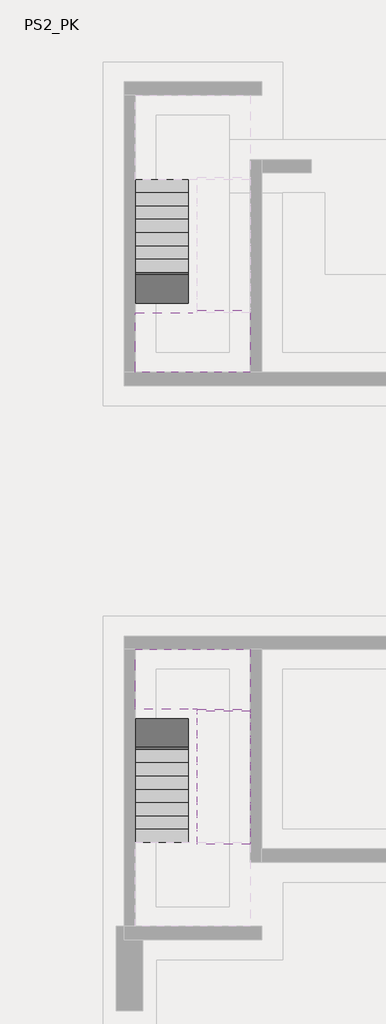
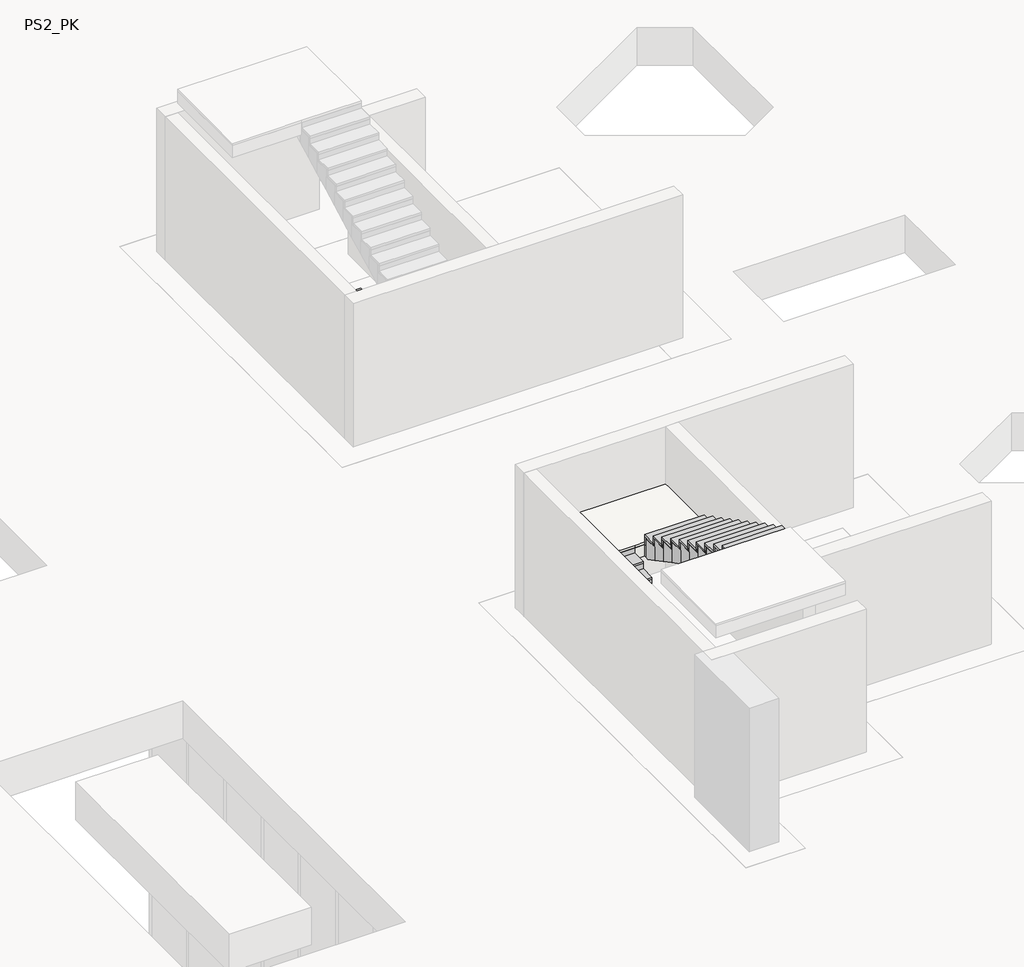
# One storey, part 9 of 10: 3 stair flights, 2 slabs.
"""IFC4 building model written with IfcOpenShell, lengths in millimetres."""

import ifcopenshell
import ifcopenshell.guid

model = None  # the IFC model being written
_history = None  # IfcOwnerHistory: only IFC2X3 demands one
_inside = {}  # id of a spatial element -> (the spatial element, [elements in it])
_under = {}  # id of a project, library or spatial element -> (it, [spatial elements below it])
_declared = {}  # id of a project -> (the project, [libraries it declares])
_typed = {}  # id of a type object -> (the type object, [elements of that type])
_made_of = {}  # id of a material, layer set ... -> (it, [elements and type objects made of it])


def new_model(schema):
    """Start an empty IFC model of exactly this schema.

    Asked for "IFC4X3", IfcOpenShell would pick the latest addendum, in which some entities
    have other attributes; the version numbers below select the first issue.
    IFC2X3 requires an IfcOwnerHistory on every rooted entity: one is made here for all.
    """
    global model, _history
    if schema == "IFC4X3":
        model = ifcopenshell.file(schema_version=(4, 3, 0, 0))
    else:
        model = ifcopenshell.file(schema=schema)
    _inside.clear()
    _under.clear()
    _declared.clear()
    _typed.clear()
    _made_of.clear()
    _history = None
    if model.schema == "IFC2X3":
        org = make("IfcOrganization", Name="unknown")
        user = make(
            "IfcPersonAndOrganization",
            ThePerson=make("IfcPerson", FamilyName="unknown"),
            TheOrganization=org,
        )
        app = make(
            "IfcApplication",
            ApplicationDeveloper=org,
            Version="unknown",
            ApplicationFullName="unknown",
            ApplicationIdentifier="unknown",
        )
        _history = make(
            "IfcOwnerHistory",
            OwningUser=user,
            OwningApplication=app,
            ChangeAction="ADDED",
            CreationDate=0,
        )
    return model


def make(cls, **values):
    """One entity of the class cls with the attributes given. An attribute that is None is left unset."""
    return model.create_entity(
        cls, **{name: value for name, value in values.items() if value is not None}
    )


def rooted(cls, **values):
    """An entity with a GlobalId (a new one), such as an element, a storey or a relation."""
    return make(cls, GlobalId=ifcopenshell.guid.new(), OwnerHistory=_history, **values)


def si_unit(unit_type, name, prefix=None):
    """IfcSIUnit, for example si_unit("LENGTHUNIT", "METRE", prefix="MILLI")."""
    return make("IfcSIUnit", UnitType=unit_type, Prefix=prefix, Name=name)


def assignment(units):
    """IfcUnitAssignment: the units of a project."""
    return None if units is None else make("IfcUnitAssignment", Units=units)


def point(xyz):
    """IfcCartesianPoint."""
    return None if xyz is None else make("IfcCartesianPoint", Coordinates=xyz)


def direction(xyz):
    """IfcDirection."""
    return None if xyz is None else make("IfcDirection", DirectionRatios=xyz)


def frame(location, z_axis=None, x_axis=None):
    """IfcAxis2Placement3D, a coordinate frame: its origin and axes. An axis left out is left unset."""
    return make(
        "IfcAxis2Placement3D",
        Location=point(location),
        Axis=direction(z_axis),
        RefDirection=direction(x_axis),
    )


def origin():
    """The frame at (0, 0, 0) with its axes left unset."""
    return frame((0.0, 0.0, 0.0))


def place(relative_to, where):
    """IfcLocalPlacement: puts the frame where relative to a parent placement (None: the world)."""
    return make(
        "IfcLocalPlacement", PlacementRelTo=relative_to, RelativePlacement=where
    )


def context(
    kind, dimensions, precision=None, world=None, true_north=None, identifier=None
):
    """IfcGeometricRepresentationContext, for example the 3D "Model" context."""
    return make(
        "IfcGeometricRepresentationContext",
        ContextIdentifier=identifier,
        ContextType=kind,
        CoordinateSpaceDimension=dimensions,
        Precision=precision,
        WorldCoordinateSystem=world,
        TrueNorth=true_north,
    )


def project(units=None, contexts=None):
    """IfcProject with its units and contexts."""
    return rooted(
        "IfcProject",
        Name="project",
        RepresentationContexts=contexts,
        UnitsInContext=assignment(units),
    )


def spatial(cls, under=None, at=None, **own):
    """A site, building, storey or space (cls), placed at a placement, below another one or the project."""
    s = rooted(cls, ObjectPlacement=at, **own)
    if under is not None:
        _under.setdefault(under.id(), (under, []))[1].append(s)
    return s


def polyline(points):
    """IfcPolyline through the points."""
    return make("IfcPolyline", Points=[point(p) for p in points])


def outline(outer, holes=None, kind="AREA"):
    """IfcArbitraryClosedProfileDef: a profile drawn as a closed curve; with holes, ...WithVoids."""
    if holes is None:
        return make("IfcArbitraryClosedProfileDef", ProfileType=kind, OuterCurve=outer)
    return make(
        "IfcArbitraryProfileDefWithVoids",
        ProfileType=kind,
        OuterCurve=outer,
        InnerCurves=holes,
    )


def extrude(swept, where, along, depth):
    """IfcExtrudedAreaSolid: the profile swept, set in the frame where, extruded along a direction by depth."""
    return make(
        "IfcExtrudedAreaSolid",
        SweptArea=swept,
        Position=where,
        ExtrudedDirection=direction(along),
        Depth=depth,
    )


def faces_of(points, faces, orient=None, outer=None):
    """IfcFace entities. A face is a list of loops; a loop is a list of indices into points, from 0.

    orient and outer hold one flag for each loop. By default every Orientation is true, the
    first loop of a face is its IfcFaceOuterBound and the others are IfcFaceBound.
    """
    made = []
    for i, loops in enumerate(faces):
        bounds = []
        for j, loop in enumerate(loops):
            is_outer = j == 0 if outer is None else outer[i][j]
            bounds.append(
                make(
                    "IfcFaceOuterBound" if is_outer else "IfcFaceBound",
                    Bound=make("IfcPolyLoop", Polygon=[points[k] for k in loop]),
                    Orientation=True if orient is None else orient[i][j],
                )
            )
        made.append(make("IfcFace", Bounds=bounds))
    return made


def faceted_brep(points, faces, orient=None, outer=None, voids=None):
    """IfcFacetedBrep: a solid bounded by flat faces; with voids (closed shells), ...WithVoids."""
    shared = [point(p) for p in points]
    hull = make("IfcClosedShell", CfsFaces=faces_of(shared, faces, orient, outer))
    if voids is None:
        return make("IfcFacetedBrep", Outer=hull)
    return make(
        "IfcFacetedBrepWithVoids",
        Outer=hull,
        Voids=[
            make(cls, CfsFaces=faces_of(shared, fs, o, b)) for cls, fs, o, b in voids
        ],
    )


def shape(context_of_items, identifier, shape_type, items):
    """IfcShapeRepresentation: the items that make up one representation, for example the "Body"."""
    return make(
        "IfcShapeRepresentation",
        ContextOfItems=context_of_items,
        RepresentationIdentifier=identifier,
        RepresentationType=shape_type,
        Items=items,
    )


def made_of(thing, what):
    """Note that an element or type object is made of a material, layer set ...; save() writes the relation."""
    if what is not None:
        _made_of.setdefault(what.id(), (what, []))[1].append(thing)
    return thing


def element(
    cls,
    number,
    at=None,
    inside=None,
    cuts=None,
    type_object=None,
    material=None,
    context=None,
    identifier="Body",
    shape_type=None,
    held_by="IfcProductDefinitionShape",
    body=None,
    shapes=None,
    **own,
):
    """One element of the class cls, such as IfcWall. Its Tag is "e" and its number.

    at: its placement. inside: the storey or other place that contains it. cuts: it is an
    opening in that element (IfcRelVoidsElement). A single representation is given by context,
    identifier, shape_type and body (its items); several are given by shapes. held_by: the class
    of the entity that holds the representations. save() writes the other relations.
    """
    e = rooted(cls, Tag="e%d" % number, ObjectPlacement=at, **own)
    if body is not None:
        shapes = [shape(context, identifier, shape_type, body)]
    if shapes is not None:
        e.Representation = make(held_by, Representations=shapes)
    if inside is not None:
        _inside.setdefault(inside.id(), (inside, []))[1].append(e)
    if cuts is not None:
        rooted(
            "IfcRelVoidsElement", RelatingBuildingElement=cuts, RelatedOpeningElement=e
        )
    if type_object is not None:
        _typed.setdefault(type_object.id(), (type_object, []))[1].append(e)
    return made_of(e, material)


def aggregate(whole, parts):
    """IfcRelAggregates: a whole, such as a stair, and the parts it consists of."""
    return rooted("IfcRelAggregates", RelatingObject=whole, RelatedObjects=parts)


def save(model, path):
    """Write the relations noted so far, then the file.

    IfcRelAggregates (storeys below a building ...), IfcRelContainedInSpatialStructure (elements
    in a storey), IfcRelDefinesByType, IfcRelAssociatesMaterial and IfcRelDeclares: one each for
    every whole, place, type object, material and project.
    """
    for whole, parts in _under.values():
        aggregate(whole, parts)
    for where, things in _inside.values():
        rooted(
            "IfcRelContainedInSpatialStructure",
            RelatedElements=things,
            RelatingStructure=where,
        )
    for kind, things in _typed.values():
        rooted("IfcRelDefinesByType", RelatedObjects=things, RelatingType=kind)
    for what, things in _made_of.values():
        rooted("IfcRelAssociatesMaterial", RelatedObjects=things, RelatingMaterial=what)
    for by, libraries in _declared.values():
        rooted("IfcRelDeclares", RelatingContext=by, RelatedDefinitions=libraries)
    model.write(path)


model = new_model("IFC4")

# Units and contexts
model_context = context("Model", 3, world=origin())
ifc_project = project(units=[si_unit("LENGTHUNIT", "METRE", prefix="MILLI")], contexts=[model_context])

# Site, building, storey
site = spatial("IfcSite", under=ifc_project)
building = spatial("IfcBuilding", under=site)
storey = spatial("IfcBuildingStorey", under=building, Name="PS2_PK", Elevation=-1600.0)

# Slabs
placement = place(None, origin())
element("IfcSlab", 1, ObjectType="250mm_Thickness", at=placement, inside=storey, context=model_context, shape_type="SolidModel", body=[
    faceted_brep([(-12190.3216429, 8964.882711, 175.0), (-12190.3216429, 8914.882711, 175.0), (-13390.3216429, 8914.882711, 175.0), (-13390.3216429, 8553.4830768, 175.0), (-13390.3216429, 7614.8960687, 175.0), (-10790.2146087, 7614.8960687, 175.0), (-10790.2146087, 8964.882711, 175.0), (-10790.2146087, 9014.882711, 175.0), (-11990.2146087, 9014.882711, 175.0), (-11990.2146087, 8964.882711, 175.0), (-12190.3216429, 8964.882711, -75.0), (-12190.3216429, 8914.882711, -75.0), (-12190.3216429, 8914.882711, 18.1818182), (-12190.3216429, 8914.882711, -263.9134452), (-13390.3216429, 8914.882711, -263.9134452), (-13390.3216429, 8914.882711, 18.1818182), (-13390.3216429, 8553.4830768, -75.0), (-13390.3216429, 7614.8960687, -75.0), (-10790.2146087, 7614.8960687, -75.0), (-10790.2146087, 8964.882711, -75.0), (-10790.2146087, 9014.882711, -75.0), (-11990.2146087, 9014.882711, -75.0), (-11990.2146087, 8964.882711, -75.0), (-12190.3216429, 8553.4830768, -75.0)], [[[0, 1, 2, 3, 4, 5, 6, 7, 8, 9]], [[1, 0, 10, 11, 12]], [[2, 1, 12, 11, 13, 14, 15]], [[2, 15, 14, 16, 17, 4, 3]], [[5, 4, 17, 18]], [[6, 5, 18, 19]], [[7, 6, 19, 20]], [[8, 7, 20, 21]], [[9, 8, 21, 22]], [[0, 9, 22, 10]], [[16, 23, 11, 10, 22, 21, 20, 19, 18, 17]], [[23, 16, 14, 13]], [[11, 23, 13]]]),
    extrude(outline(polyline([(-12190.3216429, 8964.882711), (-11990.2146087, 8964.882711), (-10790.2146087, 8964.882711), (-10790.2146087, 7614.8960687), (-13390.3216429, 7614.8960687), (-13390.3216429, 8964.882711), (-12190.3216429, 8964.882711)])), frame((0.0, 0.0, 175.0), z_axis=(0.0, 0.0, 1.0), x_axis=(1.0, 0.0, 0.0)), (0.0, 0.0, 1.0), 50.0),
])
element("IfcSlab", 2, ObjectType="250mm_Thickness", at=placement, inside=storey, context=model_context, shape_type="SolidModel", body=[
    faceted_brep([(-13390.3216429, 64.9094255, 175.0), (-12190.3216429, 64.9094255, 175.0), (-12190.3216429, 14.9094255, 175.0), (-11990.2146087, 14.9094255, 175.0), (-11990.2146087, -35.0905745, 175.0), (-10790.2146087, -35.0905745, 175.0), (-10790.2146087, 14.9094255, 175.0), (-10790.2146087, 1364.8960678, 175.0), (-13390.3216429, 1364.8960678, 175.0), (-13390.3216429, 426.3090597, 175.0), (-13390.3216429, 64.9094255, 18.1818182), (-13390.3216429, 64.9094255, -263.9134452), (-12190.3216429, 64.9094255, -263.9134452), (-12190.3216429, 64.9094255, -75.0), (-12190.3216429, 64.9094255, 18.1818182), (-13390.3216429, 1364.8960678, -75.0), (-13390.3216429, 426.3090597, -75.0), (-10790.2146087, 1364.8960678, -75.0), (-10790.2146087, 14.9094255, -75.0), (-10790.2146087, -35.0905745, -75.0), (-11990.2146087, -35.0905745, -75.0), (-12190.3216429, 14.9094255, -75.0), (-11990.2146087, 14.9094255, -75.0), (-12190.3216429, 426.3090597, -75.0)], [[[0, 1, 2, 3, 4, 5, 6, 7, 8, 9]], [[1, 0, 10, 11, 12, 13, 14]], [[11, 10, 0, 9, 8, 15, 16]], [[8, 7, 17, 15]], [[7, 6, 18, 17]], [[6, 5, 19, 18]], [[5, 4, 20, 19]], [[3, 2, 21, 22]], [[23, 16, 15, 17, 18, 19, 20, 22, 21, 13]], [[16, 23, 12, 11]], [[23, 13, 12]], [[2, 1, 14, 13, 21]], [[4, 3, 22, 20]]]),
    extrude(outline(polyline([(-13390.3216429, 14.9094255), (-13390.3216429, 1364.8960678), (-10790.2146087, 1364.8960678), (-10790.2146087, 14.9094255), (-11990.2146087, 14.9094255), (-12190.3216429, 14.9094255), (-13390.3216429, 14.9094255)])), frame((0.0, 0.0, 175.0), z_axis=(0.0, 0.0, 1.0), x_axis=(1.0, 0.0, 0.0)), (0.0, 0.0, 1.0), 50.0),
])

# Stair flights
element("IfcStairFlight", 3, ObjectType="250mm Depth", at=placement, inside=storey, context=model_context, shape_type="SolidModel", body=[
    faceted_brep([(-12190.3216429, 11614.882711, -1393.1818182), (-12190.3216429, 11914.882711, -1393.1818182), (-13390.3216429, 11914.882711, -1393.1818182), (-13390.3216429, 11614.882711, -1393.1818182), (-12190.3216429, 11614.882711, -1500.0), (-12190.3216429, 11914.882711, -1500.0), (-13390.3216429, 11914.882711, -1500.0), (-13390.3216429, 11614.882711, -1500.0), (-12190.3216429, 11314.882711, -1236.3636364), (-12190.3216429, 11614.882711, -1236.3636364), (-13390.3216429, 11614.882711, -1236.3636364), (-13390.3216429, 11314.882711, -1236.3636364), (-12190.3216429, 11314.882711, -1500.0), (-13390.3216429, 11314.882711, -1500.0), (-12190.3216429, 11014.882711, -1079.5454545), (-12190.3216429, 11314.882711, -1079.5454545), (-13390.3216429, 11314.882711, -1079.5454545), (-13390.3216429, 11014.882711, -1079.5454545), (-12190.3216429, 11014.882711, -1361.6407179), (-12190.3216429, 11279.5700333, -1500.0), (-13390.3216429, 11279.5700333, -1500.0), (-13390.3216429, 11014.882711, -1361.6407179), (-12190.3216429, 10714.882711, -922.7272727), (-12190.3216429, 11014.882711, -922.7272727), (-13390.3216429, 11014.882711, -922.7272727), (-13390.3216429, 10714.882711, -922.7272727), (-12190.3216429, 10714.882711, -1204.8225361), (-13390.3216429, 10714.882711, -1204.8225361), (-12190.3216429, 10414.882711, -765.9090909), (-12190.3216429, 10714.882711, -765.9090909), (-13390.3216429, 10714.882711, -765.9090909), (-13390.3216429, 10414.882711, -765.9090909), (-12190.3216429, 10414.882711, -1048.0043543), (-13390.3216429, 10414.882711, -1048.0043543), (-12190.3216429, 10114.882711, -609.0909091), (-12190.3216429, 10414.882711, -609.0909091), (-13390.3216429, 10414.882711, -609.0909091), (-13390.3216429, 10114.882711, -609.0909091), (-12190.3216429, 10114.882711, -891.1861724), (-13390.3216429, 10114.882711, -891.1861724), (-12190.3216429, 9814.882711, -452.2727273), (-12190.3216429, 10114.882711, -452.2727273), (-13390.3216429, 10114.882711, -452.2727273), (-13390.3216429, 9814.882711, -452.2727273), (-12190.3216429, 9814.882711, -734.3679906), (-13390.3216429, 9814.882711, -734.3679906), (-12190.3216429, 9514.882711, -295.4545455), (-12190.3216429, 9814.882711, -295.4545455), (-13390.3216429, 9814.882711, -295.4545455), (-13390.3216429, 9514.882711, -295.4545455), (-12190.3216429, 9514.882711, -577.5498088), (-13390.3216429, 9514.882711, -577.5498088), (-12190.3216429, 9214.882711, -138.6363636), (-12190.3216429, 9514.882711, -138.6363636), (-13390.3216429, 9514.882711, -138.6363636), (-13390.3216429, 9214.882711, -138.6363636), (-12190.3216429, 9214.882711, -420.731627), (-13390.3216429, 9214.882711, -420.731627), (-12190.3216429, 9214.882711, 18.1818182), (-13390.3216429, 9214.882711, 18.1818182), (-13390.3216429, 8964.882711, 18.1818182), (-13390.3216429, 8914.882711, 18.1818182), (-12190.3216429, 8914.882711, 18.1818182), (-12190.3216429, 8964.882711, 18.1818182), (-12190.3216429, 8914.882711, -75.0), (-12190.3216429, 8914.882711, -263.9134452), (-13390.3216429, 8964.882711, -290.0498088), (-13390.3216429, 8914.882711, -263.9134452)], [[[0, 1, 2, 3]], [[1, 0, 4, 5]], [[2, 1, 5, 6]], [[3, 2, 6, 7]], [[8, 9, 10, 11]], [[4, 0, 9, 8, 12]], [[0, 3, 10, 9]], [[3, 7, 13, 11, 10]], [[14, 15, 16, 17]], [[12, 8, 15, 14, 18, 19]], [[8, 11, 16, 15]], [[11, 13, 20, 21, 17, 16]], [[22, 23, 24, 25]], [[23, 22, 26, 18, 14]], [[14, 17, 24, 23]], [[25, 24, 17, 21, 27]], [[28, 29, 30, 31]], [[29, 28, 32, 26, 22]], [[22, 25, 30, 29]], [[31, 30, 25, 27, 33]], [[34, 35, 36, 37]], [[35, 34, 38, 32, 28]], [[28, 31, 36, 35]], [[37, 36, 31, 33, 39]], [[40, 41, 42, 43]], [[41, 40, 44, 38, 34]], [[34, 37, 42, 41]], [[43, 42, 37, 39, 45]], [[46, 47, 48, 49]], [[47, 46, 50, 44, 40]], [[40, 43, 48, 47]], [[49, 48, 43, 45, 51]], [[52, 53, 54, 55]], [[53, 52, 56, 50, 46]], [[46, 49, 54, 53]], [[55, 54, 49, 51, 57]], [[58, 59, 60, 61, 62, 63]], [[52, 58, 63, 62, 64, 65, 56]], [[52, 55, 59, 58]], [[59, 55, 57, 66, 67, 61, 60]], [[62, 61, 67, 65, 64]], [[5, 4, 12, 19, 20, 13, 7, 6]], [[20, 19, 18, 26, 32, 38, 44, 50, 56, 65, 67, 66, 57, 51, 45, 39, 33, 27, 21]]]),
    extrude(outline(polyline([(-13390.3216429, 11914.882711), (-13390.3216429, 11964.882711), (-12190.3216429, 11964.882711), (-12190.3216429, 11914.882711), (-13390.3216429, 11914.882711)])), frame((0.0, 0.0, -1500.0), z_axis=(0.0, 0.0, 1.0), x_axis=(1.0, 0.0, 0.0)), (0.0, 0.0, 1.0), 106.8181818),
    extrude(outline(polyline([(-12190.3216429, 11664.882711), (-13390.3216429, 11664.882711), (-13390.3216429, 11964.882711), (-12190.3216429, 11964.882711), (-12190.3216429, 11664.882711)])), frame((0.0, 0.0, -1393.1818182), z_axis=(0.0, 0.0, 1.0), x_axis=(1.0, 0.0, 0.0)), (0.0, 0.0, 1.0), 50.0),
    extrude(outline(polyline([(-13390.3216429, 11614.882711), (-13390.3216429, 11664.882711), (-12190.3216429, 11664.882711), (-12190.3216429, 11614.882711), (-13390.3216429, 11614.882711)])), frame((0.0, 0.0, -1393.1818182), z_axis=(0.0, 0.0, 1.0), x_axis=(1.0, 0.0, 0.0)), (0.0, 0.0, 1.0), 156.8181818),
    extrude(outline(polyline([(-12190.3216429, 11364.882711), (-13390.3216429, 11364.882711), (-13390.3216429, 11664.882711), (-12190.3216429, 11664.882711), (-12190.3216429, 11364.882711)])), frame((0.0, 0.0, -1236.3636364), z_axis=(0.0, 0.0, 1.0), x_axis=(1.0, 0.0, 0.0)), (0.0, 0.0, 1.0), 50.0),
    extrude(outline(polyline([(-13390.3216429, 11314.882711), (-13390.3216429, 11364.882711), (-12190.3216429, 11364.882711), (-12190.3216429, 11314.882711), (-13390.3216429, 11314.882711)])), frame((0.0, 0.0, -1236.3636364), z_axis=(0.0, 0.0, 1.0), x_axis=(1.0, 0.0, 0.0)), (0.0, 0.0, 1.0), 156.8181818),
    extrude(outline(polyline([(-12190.3216429, 11064.882711), (-13390.3216429, 11064.882711), (-13390.3216429, 11364.882711), (-12190.3216429, 11364.882711), (-12190.3216429, 11064.882711)])), frame((0.0, 0.0, -1079.5454545), z_axis=(0.0, 0.0, 1.0), x_axis=(1.0, 0.0, 0.0)), (0.0, 0.0, 1.0), 50.0),
    extrude(outline(polyline([(-13390.3216429, 11014.882711), (-13390.3216429, 11064.882711), (-12190.3216429, 11064.882711), (-12190.3216429, 11014.882711), (-13390.3216429, 11014.882711)])), frame((0.0, 0.0, -1079.5454545), z_axis=(0.0, 0.0, 1.0), x_axis=(1.0, 0.0, 0.0)), (0.0, 0.0, 1.0), 156.8181818),
    extrude(outline(polyline([(-12190.3216429, 10764.882711), (-13390.3216429, 10764.882711), (-13390.3216429, 11064.882711), (-12190.3216429, 11064.882711), (-12190.3216429, 10764.882711)])), frame((0.0, 0.0, -922.7272727), z_axis=(0.0, 0.0, 1.0), x_axis=(1.0, 0.0, 0.0)), (0.0, 0.0, 1.0), 50.0),
    extrude(outline(polyline([(-13390.3216429, 10714.882711), (-13390.3216429, 10764.882711), (-12190.3216429, 10764.882711), (-12190.3216429, 10714.882711), (-13390.3216429, 10714.882711)])), frame((0.0, 0.0, -922.7272727), z_axis=(0.0, 0.0, 1.0), x_axis=(1.0, 0.0, 0.0)), (0.0, 0.0, 1.0), 156.8181818),
    extrude(outline(polyline([(-12190.3216429, 10464.882711), (-13390.3216429, 10464.882711), (-13390.3216429, 10764.882711), (-12190.3216429, 10764.882711), (-12190.3216429, 10464.882711)])), frame((0.0, 0.0, -765.9090909), z_axis=(0.0, 0.0, 1.0), x_axis=(1.0, 0.0, 0.0)), (0.0, 0.0, 1.0), 50.0),
    extrude(outline(polyline([(-13390.3216429, 10414.882711), (-13390.3216429, 10464.882711), (-12190.3216429, 10464.882711), (-12190.3216429, 10414.882711), (-13390.3216429, 10414.882711)])), frame((0.0, 0.0, -765.9090909), z_axis=(0.0, 0.0, 1.0), x_axis=(1.0, 0.0, 0.0)), (0.0, 0.0, 1.0), 156.8181818),
    extrude(outline(polyline([(-12190.3216429, 10164.882711), (-13390.3216429, 10164.882711), (-13390.3216429, 10464.882711), (-12190.3216429, 10464.882711), (-12190.3216429, 10164.882711)])), frame((0.0, 0.0, -609.0909091), z_axis=(0.0, 0.0, 1.0), x_axis=(1.0, 0.0, 0.0)), (0.0, 0.0, 1.0), 50.0),
    extrude(outline(polyline([(-13390.3216429, 10114.882711), (-13390.3216429, 10164.882711), (-12190.3216429, 10164.882711), (-12190.3216429, 10114.882711), (-13390.3216429, 10114.882711)])), frame((0.0, 0.0, -609.0909091), z_axis=(0.0, 0.0, 1.0), x_axis=(1.0, 0.0, 0.0)), (0.0, 0.0, 1.0), 156.8181818),
    extrude(outline(polyline([(-12190.3216429, 9864.882711), (-13390.3216429, 9864.882711), (-13390.3216429, 10164.882711), (-12190.3216429, 10164.882711), (-12190.3216429, 9864.882711)])), frame((0.0, 0.0, -452.2727273), z_axis=(0.0, 0.0, 1.0), x_axis=(1.0, 0.0, 0.0)), (0.0, 0.0, 1.0), 50.0),
    extrude(outline(polyline([(-13390.3216429, 9814.882711), (-13390.3216429, 9864.882711), (-12190.3216429, 9864.882711), (-12190.3216429, 9814.882711), (-13390.3216429, 9814.882711)])), frame((0.0, 0.0, -452.2727273), z_axis=(0.0, 0.0, 1.0), x_axis=(1.0, 0.0, 0.0)), (0.0, 0.0, 1.0), 156.8181818),
    extrude(outline(polyline([(-12190.3216429, 9564.882711), (-13390.3216429, 9564.882711), (-13390.3216429, 9864.882711), (-12190.3216429, 9864.882711), (-12190.3216429, 9564.882711)])), frame((0.0, 0.0, -295.4545455), z_axis=(0.0, 0.0, 1.0), x_axis=(1.0, 0.0, 0.0)), (0.0, 0.0, 1.0), 50.0),
    extrude(outline(polyline([(-13390.3216429, 9514.882711), (-13390.3216429, 9564.882711), (-12190.3216429, 9564.882711), (-12190.3216429, 9514.882711), (-13390.3216429, 9514.882711)])), frame((0.0, 0.0, -295.4545455), z_axis=(0.0, 0.0, 1.0), x_axis=(1.0, 0.0, 0.0)), (0.0, 0.0, 1.0), 156.8181818),
    extrude(outline(polyline([(-12190.3216429, 9264.882711), (-13390.3216429, 9264.882711), (-13390.3216429, 9564.882711), (-12190.3216429, 9564.882711), (-12190.3216429, 9264.882711)])), frame((0.0, 0.0, -138.6363636), z_axis=(0.0, 0.0, 1.0), x_axis=(1.0, 0.0, 0.0)), (0.0, 0.0, 1.0), 50.0),
    extrude(outline(polyline([(-13390.3216429, 9214.882711), (-13390.3216429, 9264.882711), (-12190.3216429, 9264.882711), (-12190.3216429, 9214.882711), (-13390.3216429, 9214.882711)])), frame((0.0, 0.0, -138.6363636), z_axis=(0.0, 0.0, 1.0), x_axis=(1.0, 0.0, 0.0)), (0.0, 0.0, 1.0), 156.8181818),
    extrude(outline(polyline([(-13390.3216429, 8914.882711), (-13390.3216429, 8964.882711), (-12190.3216429, 8964.882711), (-12190.3216429, 8914.882711), (-13390.3216429, 8914.882711)])), frame((0.0, 0.0, 18.1818182), z_axis=(0.0, 0.0, 1.0), x_axis=(1.0, 0.0, 0.0)), (0.0, 0.0, 1.0), 156.8181818),
    extrude(outline(polyline([(-12190.3216429, 8964.882711), (-13390.3216429, 8964.882711), (-13390.3216429, 9264.882711), (-12190.3216429, 9264.882711), (-12190.3216429, 8964.882711)])), frame((0.0, 0.0, 18.1818182), z_axis=(0.0, 0.0, 1.0), x_axis=(1.0, 0.0, 0.0)), (0.0, 0.0, 1.0), 50.0),
])
element("IfcStairFlight", 4, ObjectType="250mm Depth", at=placement, inside=storey, context=model_context, shape_type="SolidModel", body=[
    faceted_brep([(-13390.3216429, -2635.0905745, -1393.1818182), (-13390.3216429, -2935.0905745, -1393.1818182), (-12190.3216429, -2935.0905745, -1393.1818182), (-12190.3216429, -2635.0905745, -1393.1818182), (-12190.3216429, -2935.0905745, -1500.0), (-12190.3216429, -2635.0905745, -1500.0), (-13390.3216429, -2935.0905745, -1500.0), (-13390.3216429, -2635.0905745, -1500.0), (-13390.3216429, -2335.0905745, -1236.3636364), (-13390.3216429, -2635.0905745, -1236.3636364), (-12190.3216429, -2635.0905745, -1236.3636364), (-12190.3216429, -2335.0905745, -1236.3636364), (-12190.3216429, -2335.0905745, -1500.0), (-13390.3216429, -2335.0905745, -1500.0), (-13390.3216429, -2035.0905745, -1079.5454545), (-13390.3216429, -2335.0905745, -1079.5454545), (-12190.3216429, -2335.0905745, -1079.5454545), (-12190.3216429, -2035.0905745, -1079.5454545), (-12190.3216429, -2299.7778968, -1500.0), (-12190.3216429, -2035.0905745, -1361.6407179), (-13390.3216429, -2035.0905745, -1361.6407179), (-13390.3216429, -2299.7778968, -1500.0), (-13390.3216429, -1735.0905745, -922.7272727), (-13390.3216429, -2035.0905745, -922.7272727), (-12190.3216429, -2035.0905745, -922.7272727), (-12190.3216429, -1735.0905745, -922.7272727), (-12190.3216429, -1735.0905745, -1204.8225361), (-13390.3216429, -1735.0905745, -1204.8225361), (-13390.3216429, -1435.0905745, -765.9090909), (-13390.3216429, -1735.0905745, -765.9090909), (-12190.3216429, -1735.0905745, -765.9090909), (-12190.3216429, -1435.0905745, -765.9090909), (-12190.3216429, -1435.0905745, -1048.0043543), (-13390.3216429, -1435.0905745, -1048.0043543), (-13390.3216429, -1135.0905745, -609.0909091), (-13390.3216429, -1435.0905745, -609.0909091), (-12190.3216429, -1435.0905745, -609.0909091), (-12190.3216429, -1135.0905745, -609.0909091), (-12190.3216429, -1135.0905745, -891.1861724), (-13390.3216429, -1135.0905745, -891.1861724), (-13390.3216429, -835.0905745, -452.2727273), (-13390.3216429, -1135.0905745, -452.2727273), (-12190.3216429, -1135.0905745, -452.2727273), (-12190.3216429, -835.0905745, -452.2727273), (-12190.3216429, -835.0905745, -734.3679906), (-13390.3216429, -835.0905745, -734.3679906), (-13390.3216429, -535.0905745, -295.4545455), (-13390.3216429, -835.0905745, -295.4545455), (-12190.3216429, -835.0905745, -295.4545455), (-12190.3216429, -535.0905745, -295.4545455), (-12190.3216429, -535.0905745, -577.5498088), (-13390.3216429, -535.0905745, -577.5498088), (-13390.3216429, -235.0905745, -138.6363636), (-13390.3216429, -535.0905745, -138.6363636), (-12190.3216429, -535.0905745, -138.6363636), (-12190.3216429, -235.0905745, -138.6363636), (-12190.3216429, -235.0905745, -420.731627), (-13390.3216429, -235.0905745, -420.731627), (-13390.3216429, 64.9094255, 18.1818182), (-13390.3216429, -235.0905745, 18.1818182), (-12190.3216429, -235.0905745, 18.1818182), (-12190.3216429, 14.9094255, 18.1818182), (-12190.3216429, 64.9094255, 18.1818182), (-12190.3216429, 64.9094255, -263.9134452), (-12190.3216429, 64.9094255, -75.0), (-13390.3216429, 64.9094255, -263.9134452)], [[[0, 1, 2, 3]], [[3, 2, 4, 5]], [[2, 1, 6, 4]], [[1, 0, 7, 6]], [[8, 9, 10, 11]], [[3, 5, 12, 11, 10]], [[0, 3, 10, 9]], [[7, 0, 9, 8, 13]], [[14, 15, 16, 17]], [[11, 12, 18, 19, 17, 16]], [[8, 11, 16, 15]], [[13, 8, 15, 14, 20, 21]], [[22, 23, 24, 25]], [[25, 24, 17, 19, 26]], [[14, 17, 24, 23]], [[23, 22, 27, 20, 14]], [[28, 29, 30, 31]], [[31, 30, 25, 26, 32]], [[22, 25, 30, 29]], [[29, 28, 33, 27, 22]], [[34, 35, 36, 37]], [[37, 36, 31, 32, 38]], [[28, 31, 36, 35]], [[35, 34, 39, 33, 28]], [[40, 41, 42, 43]], [[43, 42, 37, 38, 44]], [[34, 37, 42, 41]], [[41, 40, 45, 39, 34]], [[46, 47, 48, 49]], [[49, 48, 43, 44, 50]], [[40, 43, 48, 47]], [[47, 46, 51, 45, 40]], [[52, 53, 54, 55]], [[55, 54, 49, 50, 56]], [[46, 49, 54, 53]], [[53, 52, 57, 51, 46]], [[58, 59, 60, 61, 62]], [[60, 55, 56, 63, 64, 62, 61]], [[52, 55, 60, 59]], [[59, 58, 65, 57, 52]], [[58, 62, 64, 63, 65]], [[6, 7, 13, 21, 18, 12, 5, 4]], [[18, 21, 20, 27, 33, 39, 45, 51, 57, 65, 63, 56, 50, 44, 38, 32, 26, 19]]]),
    extrude(outline(polyline([(-12190.3216429, -2935.0905745), (-12190.3216429, -2985.0905745), (-13390.3216429, -2985.0905745), (-13390.3216429, -2935.0905745), (-12190.3216429, -2935.0905745)])), frame((0.0, 0.0, -1500.0), z_axis=(0.0, 0.0, 1.0), x_axis=(1.0, 0.0, 0.0)), (0.0, 0.0, 1.0), 106.8181818),
    extrude(outline(polyline([(-13390.3216429, -2685.0905745), (-12190.3216429, -2685.0905745), (-12190.3216429, -2985.0905745), (-13390.3216429, -2985.0905745), (-13390.3216429, -2685.0905745)])), frame((0.0, 0.0, -1393.1818182), z_axis=(0.0, 0.0, 1.0), x_axis=(1.0, 0.0, 0.0)), (0.0, 0.0, 1.0), 50.0),
    extrude(outline(polyline([(-12190.3216429, -2635.0905745), (-12190.3216429, -2685.0905745), (-13390.3216429, -2685.0905745), (-13390.3216429, -2635.0905745), (-12190.3216429, -2635.0905745)])), frame((0.0, 0.0, -1393.1818182), z_axis=(0.0, 0.0, 1.0), x_axis=(1.0, 0.0, 0.0)), (0.0, 0.0, 1.0), 156.8181818),
    extrude(outline(polyline([(-13390.3216429, -2385.0905745), (-12190.3216429, -2385.0905745), (-12190.3216429, -2685.0905745), (-13390.3216429, -2685.0905745), (-13390.3216429, -2385.0905745)])), frame((0.0, 0.0, -1236.3636364), z_axis=(0.0, 0.0, 1.0), x_axis=(1.0, 0.0, 0.0)), (0.0, 0.0, 1.0), 50.0),
    extrude(outline(polyline([(-12190.3216429, -2335.0905745), (-12190.3216429, -2385.0905745), (-13390.3216429, -2385.0905745), (-13390.3216429, -2335.0905745), (-12190.3216429, -2335.0905745)])), frame((0.0, 0.0, -1236.3636364), z_axis=(0.0, 0.0, 1.0), x_axis=(1.0, 0.0, 0.0)), (0.0, 0.0, 1.0), 156.8181818),
    extrude(outline(polyline([(-13390.3216429, -2085.0905745), (-12190.3216429, -2085.0905745), (-12190.3216429, -2385.0905745), (-13390.3216429, -2385.0905745), (-13390.3216429, -2085.0905745)])), frame((0.0, 0.0, -1079.5454545), z_axis=(0.0, 0.0, 1.0), x_axis=(1.0, 0.0, 0.0)), (0.0, 0.0, 1.0), 50.0),
    extrude(outline(polyline([(-12190.3216429, -2035.0905745), (-12190.3216429, -2085.0905745), (-13390.3216429, -2085.0905745), (-13390.3216429, -2035.0905745), (-12190.3216429, -2035.0905745)])), frame((0.0, 0.0, -1079.5454545), z_axis=(0.0, 0.0, 1.0), x_axis=(1.0, 0.0, 0.0)), (0.0, 0.0, 1.0), 156.8181818),
    extrude(outline(polyline([(-13390.3216429, -1785.0905745), (-12190.3216429, -1785.0905745), (-12190.3216429, -2085.0905745), (-13390.3216429, -2085.0905745), (-13390.3216429, -1785.0905745)])), frame((0.0, 0.0, -922.7272727), z_axis=(0.0, 0.0, 1.0), x_axis=(1.0, 0.0, 0.0)), (0.0, 0.0, 1.0), 50.0),
    extrude(outline(polyline([(-12190.3216429, -1735.0905745), (-12190.3216429, -1785.0905745), (-13390.3216429, -1785.0905745), (-13390.3216429, -1735.0905745), (-12190.3216429, -1735.0905745)])), frame((0.0, 0.0, -922.7272727), z_axis=(0.0, 0.0, 1.0), x_axis=(1.0, 0.0, 0.0)), (0.0, 0.0, 1.0), 156.8181818),
    extrude(outline(polyline([(-13390.3216429, -1485.0905745), (-12190.3216429, -1485.0905745), (-12190.3216429, -1785.0905745), (-13390.3216429, -1785.0905745), (-13390.3216429, -1485.0905745)])), frame((0.0, 0.0, -765.9090909), z_axis=(0.0, 0.0, 1.0), x_axis=(1.0, 0.0, 0.0)), (0.0, 0.0, 1.0), 50.0),
    extrude(outline(polyline([(-12190.3216429, -1435.0905745), (-12190.3216429, -1485.0905745), (-13390.3216429, -1485.0905745), (-13390.3216429, -1435.0905745), (-12190.3216429, -1435.0905745)])), frame((0.0, 0.0, -765.9090909), z_axis=(0.0, 0.0, 1.0), x_axis=(1.0, 0.0, 0.0)), (0.0, 0.0, 1.0), 156.8181818),
    extrude(outline(polyline([(-13390.3216429, -1185.0905745), (-12190.3216429, -1185.0905745), (-12190.3216429, -1485.0905745), (-13390.3216429, -1485.0905745), (-13390.3216429, -1185.0905745)])), frame((0.0, 0.0, -609.0909091), z_axis=(0.0, 0.0, 1.0), x_axis=(1.0, 0.0, 0.0)), (0.0, 0.0, 1.0), 50.0),
    extrude(outline(polyline([(-12190.3216429, -1135.0905745), (-12190.3216429, -1185.0905745), (-13390.3216429, -1185.0905745), (-13390.3216429, -1135.0905745), (-12190.3216429, -1135.0905745)])), frame((0.0, 0.0, -609.0909091), z_axis=(0.0, 0.0, 1.0), x_axis=(1.0, 0.0, 0.0)), (0.0, 0.0, 1.0), 156.8181818),
    extrude(outline(polyline([(-13390.3216429, -885.0905745), (-12190.3216429, -885.0905745), (-12190.3216429, -1185.0905745), (-13390.3216429, -1185.0905745), (-13390.3216429, -885.0905745)])), frame((0.0, 0.0, -452.2727273), z_axis=(0.0, 0.0, 1.0), x_axis=(1.0, 0.0, 0.0)), (0.0, 0.0, 1.0), 50.0),
    extrude(outline(polyline([(-12190.3216429, -835.0905745), (-12190.3216429, -885.0905745), (-13390.3216429, -885.0905745), (-13390.3216429, -835.0905745), (-12190.3216429, -835.0905745)])), frame((0.0, 0.0, -452.2727273), z_axis=(0.0, 0.0, 1.0), x_axis=(1.0, 0.0, 0.0)), (0.0, 0.0, 1.0), 156.8181818),
    extrude(outline(polyline([(-13390.3216429, -585.0905745), (-12190.3216429, -585.0905745), (-12190.3216429, -885.0905745), (-13390.3216429, -885.0905745), (-13390.3216429, -585.0905745)])), frame((0.0, 0.0, -295.4545455), z_axis=(0.0, 0.0, 1.0), x_axis=(1.0, 0.0, 0.0)), (0.0, 0.0, 1.0), 50.0),
    extrude(outline(polyline([(-12190.3216429, -535.0905745), (-12190.3216429, -585.0905745), (-13390.3216429, -585.0905745), (-13390.3216429, -535.0905745), (-12190.3216429, -535.0905745)])), frame((0.0, 0.0, -295.4545455), z_axis=(0.0, 0.0, 1.0), x_axis=(1.0, 0.0, 0.0)), (0.0, 0.0, 1.0), 156.8181818),
    extrude(outline(polyline([(-13390.3216429, -285.0905745), (-12190.3216429, -285.0905745), (-12190.3216429, -585.0905745), (-13390.3216429, -585.0905745), (-13390.3216429, -285.0905745)])), frame((0.0, 0.0, -138.6363636), z_axis=(0.0, 0.0, 1.0), x_axis=(1.0, 0.0, 0.0)), (0.0, 0.0, 1.0), 50.0),
    extrude(outline(polyline([(-12190.3216429, -235.0905745), (-12190.3216429, -285.0905745), (-13390.3216429, -285.0905745), (-13390.3216429, -235.0905745), (-12190.3216429, -235.0905745)])), frame((0.0, 0.0, -138.6363636), z_axis=(0.0, 0.0, 1.0), x_axis=(1.0, 0.0, 0.0)), (0.0, 0.0, 1.0), 156.8181818),
    extrude(outline(polyline([(-12190.3216429, 64.9094255), (-12190.3216429, 14.9094255), (-13390.3216429, 14.9094255), (-13390.3216429, 64.9094255), (-12190.3216429, 64.9094255)])), frame((0.0, 0.0, 18.1818182), z_axis=(0.0, 0.0, 1.0), x_axis=(1.0, 0.0, 0.0)), (0.0, 0.0, 1.0), 156.8181818),
    extrude(outline(polyline([(-13390.3216429, 14.9094255), (-12190.3216429, 14.9094255), (-12190.3216429, -285.0905745), (-13390.3216429, -285.0905745), (-13390.3216429, 14.9094255)])), frame((0.0, 0.0, 18.1818182), z_axis=(0.0, 0.0, 1.0), x_axis=(1.0, 0.0, 0.0)), (0.0, 0.0, 1.0), 50.0),
])
element("IfcStairFlight", 5, ObjectType="250mm Depth", at=placement, inside=storey, context=model_context, shape_type="SolidModel", body=[
    faceted_brep([(-10790.2146087, -35.0905745, 331.8181818), (-11990.2146087, -35.0905745, 331.8181818), (-11990.2146087, -96.4902087, 331.8181818), (-11990.2146087, -335.0905745, 331.8181818), (-10790.2146087, -335.0905745, 331.8181818), (-10790.2146087, -96.4902087, 331.8181818), (-11990.2146087, -35.0905745, 175.0), (-11990.2146087, -35.0905745, -75.0), (-11990.2146087, -96.4902087, -75.0), (-11990.2146087, -335.0905745, 49.7229185), (-10790.2146087, -35.0905745, 175.0), (-10790.2146087, -35.0905745, -75.0), (-10790.2146087, -335.0905745, 49.7229185), (-10790.2146087, -96.4902087, -75.0), (-10790.2146087, -635.0905745, 488.6363636), (-10790.2146087, -335.0905745, 488.6363636), (-11990.2146087, -335.0905745, 488.6363636), (-11990.2146087, -635.0905745, 488.6363636), (-11990.2146087, -635.0905745, 206.5411003), (-10790.2146087, -635.0905745, 206.5411003), (-10790.2146087, -935.0905745, 645.4545455), (-10790.2146087, -635.0905745, 645.4545455), (-11990.2146087, -635.0905745, 645.4545455), (-11990.2146087, -935.0905745, 645.4545455), (-11990.2146087, -935.0905745, 363.3592821), (-10790.2146087, -935.0905745, 363.3592821), (-10790.2146087, -1235.0905745, 802.2727273), (-10790.2146087, -935.0905745, 802.2727273), (-11990.2146087, -935.0905745, 802.2727273), (-11990.2146087, -1235.0905745, 802.2727273), (-11990.2146087, -1235.0905745, 520.1774639), (-10790.2146087, -1235.0905745, 520.1774639), (-10790.2146087, -1535.0905745, 959.0909091), (-10790.2146087, -1235.0905745, 959.0909091), (-11990.2146087, -1235.0905745, 959.0909091), (-11990.2146087, -1535.0905745, 959.0909091), (-11990.2146087, -1535.0905745, 676.9956457), (-10790.2146087, -1535.0905745, 676.9956457), (-10790.2146087, -1835.0905745, 1115.9090909), (-10790.2146087, -1535.0905745, 1115.9090909), (-11990.2146087, -1535.0905745, 1115.9090909), (-11990.2146087, -1835.0905745, 1115.9090909), (-11990.2146087, -1835.0905745, 833.8138276), (-10790.2146087, -1835.0905745, 833.8138276), (-10790.2146087, -2135.0905745, 1272.7272727), (-10790.2146087, -1835.0905745, 1272.7272727), (-11990.2146087, -1835.0905745, 1272.7272727), (-11990.2146087, -2135.0905745, 1272.7272727), (-11990.2146087, -2135.0905745, 990.6320094), (-10790.2146087, -2135.0905745, 990.6320094), (-10790.2146087, -2435.0905745, 1429.5454545), (-10790.2146087, -2135.0905745, 1429.5454545), (-11990.2146087, -2135.0905745, 1429.5454545), (-11990.2146087, -2435.0905745, 1429.5454545), (-11990.2146087, -2435.0905745, 1147.4501912), (-10790.2146087, -2435.0905745, 1147.4501912), (-10790.2146087, -2735.0905745, 1586.3636364), (-10790.2146087, -2435.0905745, 1586.3636364), (-11990.2146087, -2435.0905745, 1586.3636364), (-11990.2146087, -2735.0905745, 1586.3636364), (-11990.2146087, -2735.0905745, 1304.268373), (-10790.2146087, -2735.0905745, 1304.268373), (-10790.2146087, -3035.0905745, 1743.1818182), (-10790.2146087, -2735.0905745, 1743.1818182), (-11990.2146087, -2735.0905745, 1743.1818182), (-11990.2146087, -2985.0905745, 1743.1818182), (-11990.2146087, -3035.0905745, 1743.1818182), (-11990.2146087, -3035.0905745, 1461.0865548), (-11990.2146087, -3035.0905745, 1650.0), (-10790.2146087, -3035.0905745, 1461.0865548)], [[[0, 1, 2, 3, 4, 5]], [[1, 6, 7, 8, 9, 3, 2]], [[1, 0, 10, 11, 7, 6]], [[4, 12, 13, 11, 10, 0, 5]], [[14, 15, 16, 17]], [[17, 16, 3, 9, 18]], [[16, 15, 4, 3]], [[15, 14, 19, 12, 4]], [[20, 21, 22, 23]], [[23, 22, 17, 18, 24]], [[22, 21, 14, 17]], [[21, 20, 25, 19, 14]], [[26, 27, 28, 29]], [[29, 28, 23, 24, 30]], [[28, 27, 20, 23]], [[27, 26, 31, 25, 20]], [[32, 33, 34, 35]], [[35, 34, 29, 30, 36]], [[34, 33, 26, 29]], [[33, 32, 37, 31, 26]], [[38, 39, 40, 41]], [[41, 40, 35, 36, 42]], [[40, 39, 32, 35]], [[39, 38, 43, 37, 32]], [[44, 45, 46, 47]], [[47, 46, 41, 42, 48]], [[46, 45, 38, 41]], [[45, 44, 49, 43, 38]], [[50, 51, 52, 53]], [[53, 52, 47, 48, 54]], [[52, 51, 44, 47]], [[51, 50, 55, 49, 44]], [[56, 57, 58, 59]], [[59, 58, 53, 54, 60]], [[58, 57, 50, 53]], [[57, 56, 61, 55, 50]], [[62, 63, 64, 65, 66]], [[64, 59, 60, 67, 68, 66, 65]], [[64, 63, 56, 59]], [[63, 62, 69, 61, 56]], [[62, 66, 68, 67, 69]], [[8, 13, 12, 19, 25, 31, 37, 43, 49, 55, 61, 69, 67, 60, 54, 48, 42, 36, 30, 24, 18, 9]], [[13, 8, 7, 11]]]),
    extrude(outline(polyline([(-11990.2146087, -35.0905745), (-11990.2146087, 14.9094255), (-10790.2146087, 14.9094255), (-10790.2146087, -35.0905745), (-11990.2146087, -35.0905745)])), frame((0.0, 0.0, 175.0), z_axis=(0.0, 0.0, 1.0), x_axis=(1.0, 0.0, 0.0)), (0.0, 0.0, 1.0), 156.8181818),
    extrude(outline(polyline([(-10790.2146087, -285.0905745), (-11990.2146087, -285.0905745), (-11990.2146087, 14.9094255), (-10790.2146087, 14.9094255), (-10790.2146087, -285.0905745)])), frame((0.0, 0.0, 331.8181818), z_axis=(0.0, 0.0, 1.0), x_axis=(1.0, 0.0, 0.0)), (0.0, 0.0, 1.0), 50.0),
    extrude(outline(polyline([(-11990.2146087, -335.0905745), (-11990.2146087, -285.0905745), (-10790.2146087, -285.0905745), (-10790.2146087, -335.0905745), (-11990.2146087, -335.0905745)])), frame((0.0, 0.0, 331.8181818), z_axis=(0.0, 0.0, 1.0), x_axis=(1.0, 0.0, 0.0)), (0.0, 0.0, 1.0), 156.8181818),
    extrude(outline(polyline([(-10790.2146087, -585.0905745), (-11990.2146087, -585.0905745), (-11990.2146087, -285.0905745), (-10790.2146087, -285.0905745), (-10790.2146087, -585.0905745)])), frame((0.0, 0.0, 488.6363636), z_axis=(0.0, 0.0, 1.0), x_axis=(1.0, 0.0, 0.0)), (0.0, 0.0, 1.0), 50.0),
    extrude(outline(polyline([(-11990.2146087, -635.0905745), (-11990.2146087, -585.0905745), (-10790.2146087, -585.0905745), (-10790.2146087, -635.0905745), (-11990.2146087, -635.0905745)])), frame((0.0, 0.0, 488.6363636), z_axis=(0.0, 0.0, 1.0), x_axis=(1.0, 0.0, 0.0)), (0.0, 0.0, 1.0), 156.8181818),
    extrude(outline(polyline([(-10790.2146087, -885.0905745), (-11990.2146087, -885.0905745), (-11990.2146087, -585.0905745), (-10790.2146087, -585.0905745), (-10790.2146087, -885.0905745)])), frame((0.0, 0.0, 645.4545455), z_axis=(0.0, 0.0, 1.0), x_axis=(1.0, 0.0, 0.0)), (0.0, 0.0, 1.0), 50.0),
    extrude(outline(polyline([(-11990.2146087, -935.0905745), (-11990.2146087, -885.0905745), (-10790.2146087, -885.0905745), (-10790.2146087, -935.0905745), (-11990.2146087, -935.0905745)])), frame((0.0, 0.0, 645.4545455), z_axis=(0.0, 0.0, 1.0), x_axis=(1.0, 0.0, 0.0)), (0.0, 0.0, 1.0), 156.8181818),
    extrude(outline(polyline([(-10790.2146087, -1185.0905745), (-11990.2146087, -1185.0905745), (-11990.2146087, -885.0905745), (-10790.2146087, -885.0905745), (-10790.2146087, -1185.0905745)])), frame((0.0, 0.0, 802.2727273), z_axis=(0.0, 0.0, 1.0), x_axis=(1.0, 0.0, 0.0)), (0.0, 0.0, 1.0), 50.0),
    extrude(outline(polyline([(-11990.2146087, -1235.0905745), (-11990.2146087, -1185.0905745), (-10790.2146087, -1185.0905745), (-10790.2146087, -1235.0905745), (-11990.2146087, -1235.0905745)])), frame((0.0, 0.0, 802.2727273), z_axis=(0.0, 0.0, 1.0), x_axis=(1.0, 0.0, 0.0)), (0.0, 0.0, 1.0), 156.8181818),
    extrude(outline(polyline([(-10790.2146087, -1485.0905745), (-11990.2146087, -1485.0905745), (-11990.2146087, -1185.0905745), (-10790.2146087, -1185.0905745), (-10790.2146087, -1485.0905745)])), frame((0.0, 0.0, 959.0909091), z_axis=(0.0, 0.0, 1.0), x_axis=(1.0, 0.0, 0.0)), (0.0, 0.0, 1.0), 50.0),
    extrude(outline(polyline([(-11990.2146087, -1535.0905745), (-11990.2146087, -1485.0905745), (-10790.2146087, -1485.0905745), (-10790.2146087, -1535.0905745), (-11990.2146087, -1535.0905745)])), frame((0.0, 0.0, 959.0909091), z_axis=(0.0, 0.0, 1.0), x_axis=(1.0, 0.0, 0.0)), (0.0, 0.0, 1.0), 156.8181818),
    extrude(outline(polyline([(-10790.2146087, -1785.0905745), (-11990.2146087, -1785.0905745), (-11990.2146087, -1485.0905745), (-10790.2146087, -1485.0905745), (-10790.2146087, -1785.0905745)])), frame((0.0, 0.0, 1115.9090909), z_axis=(0.0, 0.0, 1.0), x_axis=(1.0, 0.0, 0.0)), (0.0, 0.0, 1.0), 50.0),
    extrude(outline(polyline([(-11990.2146087, -1835.0905745), (-11990.2146087, -1785.0905745), (-10790.2146087, -1785.0905745), (-10790.2146087, -1835.0905745), (-11990.2146087, -1835.0905745)])), frame((0.0, 0.0, 1115.9090909), z_axis=(0.0, 0.0, 1.0), x_axis=(1.0, 0.0, 0.0)), (0.0, 0.0, 1.0), 156.8181818),
    extrude(outline(polyline([(-10790.2146087, -2085.0905745), (-11990.2146087, -2085.0905745), (-11990.2146087, -1785.0905745), (-10790.2146087, -1785.0905745), (-10790.2146087, -2085.0905745)])), frame((0.0, 0.0, 1272.7272727), z_axis=(0.0, 0.0, 1.0), x_axis=(1.0, 0.0, 0.0)), (0.0, 0.0, 1.0), 50.0),
    extrude(outline(polyline([(-11990.2146087, -2135.0905745), (-11990.2146087, -2085.0905745), (-10790.2146087, -2085.0905745), (-10790.2146087, -2135.0905745), (-11990.2146087, -2135.0905745)])), frame((0.0, 0.0, 1272.7272727), z_axis=(0.0, 0.0, 1.0), x_axis=(1.0, 0.0, 0.0)), (0.0, 0.0, 1.0), 156.8181818),
    extrude(outline(polyline([(-10790.2146087, -2385.0905745), (-11990.2146087, -2385.0905745), (-11990.2146087, -2085.0905745), (-10790.2146087, -2085.0905745), (-10790.2146087, -2385.0905745)])), frame((0.0, 0.0, 1429.5454545), z_axis=(0.0, 0.0, 1.0), x_axis=(1.0, 0.0, 0.0)), (0.0, 0.0, 1.0), 50.0),
    extrude(outline(polyline([(-11990.2146087, -2435.0905745), (-11990.2146087, -2385.0905745), (-10790.2146087, -2385.0905745), (-10790.2146087, -2435.0905745), (-11990.2146087, -2435.0905745)])), frame((0.0, 0.0, 1429.5454545), z_axis=(0.0, 0.0, 1.0), x_axis=(1.0, 0.0, 0.0)), (0.0, 0.0, 1.0), 156.8181818),
    extrude(outline(polyline([(-10790.2146087, -2685.0905745), (-11990.2146087, -2685.0905745), (-11990.2146087, -2385.0905745), (-10790.2146087, -2385.0905745), (-10790.2146087, -2685.0905745)])), frame((0.0, 0.0, 1586.3636364), z_axis=(0.0, 0.0, 1.0), x_axis=(1.0, 0.0, 0.0)), (0.0, 0.0, 1.0), 50.0),
    extrude(outline(polyline([(-11990.2146087, -2735.0905745), (-11990.2146087, -2685.0905745), (-10790.2146087, -2685.0905745), (-10790.2146087, -2735.0905745), (-11990.2146087, -2735.0905745)])), frame((0.0, 0.0, 1586.3636364), z_axis=(0.0, 0.0, 1.0), x_axis=(1.0, 0.0, 0.0)), (0.0, 0.0, 1.0), 156.8181818),
    extrude(outline(polyline([(-11990.2146087, -3035.0905745), (-11990.2146087, -2985.0905745), (-10790.2146087, -2985.0905745), (-10790.2146087, -3035.0905745), (-11990.2146087, -3035.0905745)])), frame((0.0, 0.0, 1743.1818182), z_axis=(0.0, 0.0, 1.0), x_axis=(1.0, 0.0, 0.0)), (0.0, 0.0, 1.0), 156.8181818),
    extrude(outline(polyline([(-10790.2146087, -2985.0905745), (-11990.2146087, -2985.0905745), (-11990.2146087, -2685.0905745), (-10790.2146087, -2685.0905745), (-10790.2146087, -2985.0905745)])), frame((0.0, 0.0, 1743.1818182), z_axis=(0.0, 0.0, 1.0), x_axis=(1.0, 0.0, 0.0)), (0.0, 0.0, 1.0), 50.0),
])

save(model, "model.ifc")
